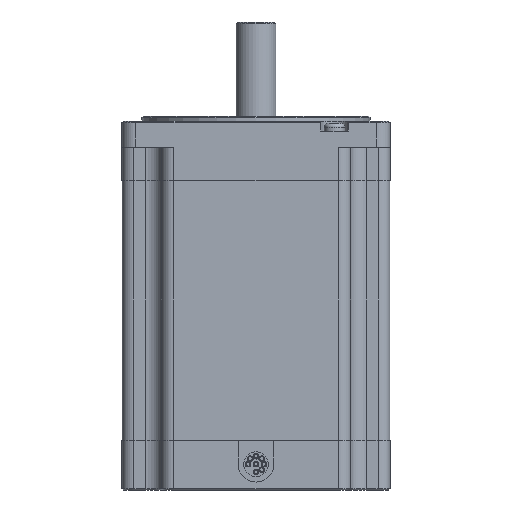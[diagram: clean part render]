
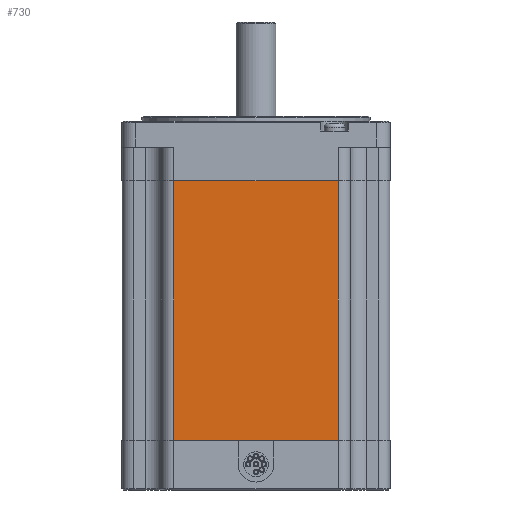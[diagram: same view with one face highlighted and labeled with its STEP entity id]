
A CAD part, front view. The second image highlights one B-rep face of the part: STEP entity #730.
In plain terms, the highlighted planar face has unit normal (0, -1, 0).
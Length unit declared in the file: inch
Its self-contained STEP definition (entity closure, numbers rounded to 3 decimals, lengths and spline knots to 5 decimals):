
#545 = VERTEX_POINT ( 'NONE', #13510 ) ;
#554 = EDGE_CURVE ( 'NONE', #700, #788, #13598, .T. ) ;
#557 = ORIENTED_EDGE ( 'NONE', *, *, #584, .T. ) ;
#563 = EDGE_CURVE ( 'NONE', #545, #700, #13590, .T. ) ;
#564 = EDGE_LOOP ( 'NONE', ( #639, #608, #570, #557 ) ) ;
#570 = ORIENTED_EDGE ( 'NONE', *, *, #563, .F. ) ;
#584 = EDGE_CURVE ( 'NONE', #545, #798, #13653, .T. ) ;
#608 = ORIENTED_EDGE ( 'NONE', *, *, #554, .F. ) ;
#639 = ORIENTED_EDGE ( 'NONE', *, *, #764, .T. ) ;
#700 = VERTEX_POINT ( 'NONE', #13993 ) ;
#730 = ADVANCED_FACE ( 'NONE', ( #14009 ), #14017, .F. ) ;
#764 = EDGE_CURVE ( 'NONE', #798, #788, #14119, .T. ) ;
#788 = VERTEX_POINT ( 'NONE', #14195 ) ;
#798 = VERTEX_POINT ( 'NONE', #14235 ) ;
#13510 = CARTESIAN_POINT ( 'NONE',  ( 1.04, -1.689, -4.025 ) ) ;
#13579 = DIRECTION ( 'NONE',  ( -1., 0., 0. ) ) ;
#13580 = VECTOR ( 'NONE', #13579, 39.37008 ) ;
#13581 = CARTESIAN_POINT ( 'NONE',  ( 1.04, -1.689, -4.025 ) ) ;
#13590 = LINE ( 'NONE', #13581, #13580 ) ;
#13591 = DIRECTION ( 'NONE',  ( 0., 0., 1. ) ) ;
#13592 = VECTOR ( 'NONE', #13591, 39.37008 ) ;
#13593 = CARTESIAN_POINT ( 'NONE',  ( -1.04, -1.689, -4.025 ) ) ;
#13598 = LINE ( 'NONE', #13593, #13592 ) ;
#13650 = DIRECTION ( 'NONE',  ( 0., 0., 1. ) ) ;
#13651 = VECTOR ( 'NONE', #13650, 39.37008 ) ;
#13652 = CARTESIAN_POINT ( 'NONE',  ( 1.04, -1.689, -4.025 ) ) ;
#13653 = LINE ( 'NONE', #13652, #13651 ) ;
#13993 = CARTESIAN_POINT ( 'NONE',  ( -1.04, -1.689, -4.025 ) ) ;
#14009 = FACE_OUTER_BOUND ( 'NONE', #564, .T. ) ;
#14010 = AXIS2_PLACEMENT_3D ( 'NONE', #14047, #14046, #14045 ) ;
#14017 = PLANE ( 'NONE',  #14010 ) ;
#14045 = DIRECTION ( 'NONE',  ( -1., 0., 0. ) ) ;
#14046 = DIRECTION ( 'NONE',  ( 0., 1., 0. ) ) ;
#14047 = CARTESIAN_POINT ( 'NONE',  ( 1.04, -1.689, -4.025 ) ) ;
#14091 = DIRECTION ( 'NONE',  ( -1., 0., 0. ) ) ;
#14092 = VECTOR ( 'NONE', #14091, 39.37008 ) ;
#14118 = CARTESIAN_POINT ( 'NONE',  ( 1.04, -1.689, -0.75 ) ) ;
#14119 = LINE ( 'NONE', #14118, #14092 ) ;
#14195 = CARTESIAN_POINT ( 'NONE',  ( -1.04, -1.689, -0.75 ) ) ;
#14235 = CARTESIAN_POINT ( 'NONE',  ( 1.04, -1.689, -0.75 ) ) ;
